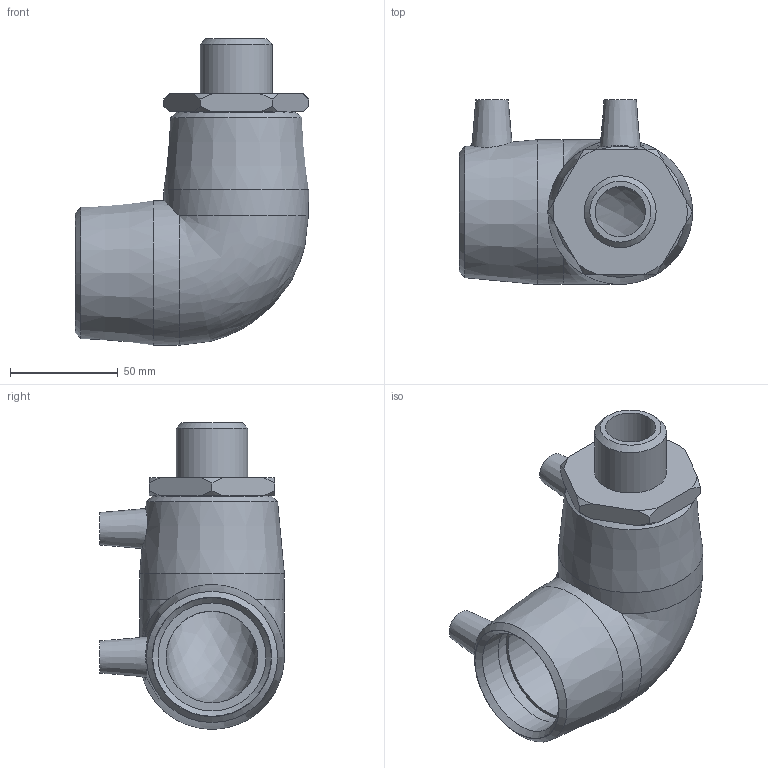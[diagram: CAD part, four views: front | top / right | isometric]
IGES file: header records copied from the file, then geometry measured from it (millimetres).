
Global section: file name: 492504050010.ipt; native system: Autodesk Inventor 2015; preprocessor: unknown; author: KIM; date: 20200202.122345; units: millimetre
Bounding box: 108 x 85.5 x 142 mm (x, y, z)
Volume: 288533.3 mm3; surface area: 65564.9 mm2
Topology: 1 solids, 2 shells, 59 faces, 143 edges, 96 vertices
Faces by surface type: plane 22, cone 19, revolution 10, cylinder 7, bspline 1
Full cylindrical faces by diameter (mm): 4 x2, 33.249 x1, 50 x2, 67 x2
